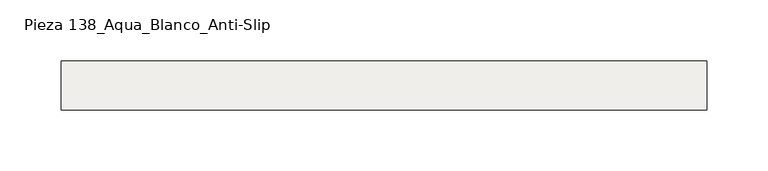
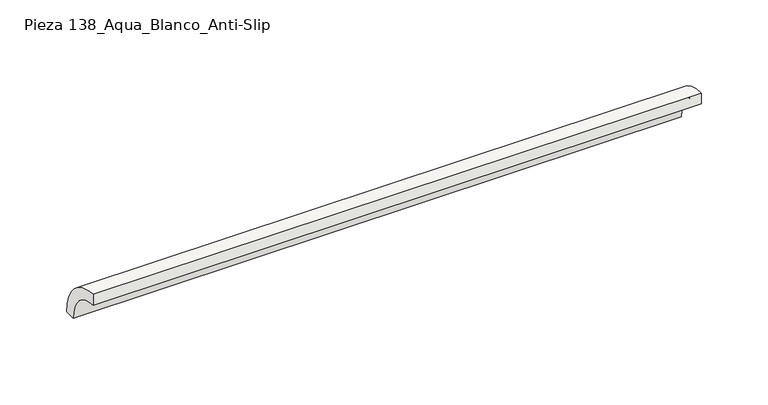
"""IFC4 building model written with IfcOpenShell, lengths in millimetres: slab geometry, ROSA GRES_138 : Pieza 138_Aqua_Blanco_Anti-Slip."""

from ifc_helpers import new_model, si_unit, point, frame, frame_2d, origin, origin_2d, place, context, project, spatial, polyline, circle_curve, trimmed, segment, composite_curve, outline, extrude, source, transform, mapped, element, save


def pieza_138_aqua_blanco_anti_slip_904e9286(model_context):
    return source(origin(), model_context, "Body", "SweptSolid", [
        extrude(outline(composite_curve([segment(trimmed(circle_curve(origin_2d(), 40.0), [point((0.0, 40.0))], [point((40.0, 0.0))], False, "CARTESIAN"), True, "CONTINUOUS"), segment(polyline([(40.0, 0.0), (30.0265886, 0.0)]), True, "CONTINUOUS"), segment(trimmed(circle_curve(frame_2d((0.0044453, 0.0044453)), 30.0221435), [point((30.0265886, 0.0))], [point((0.0, 30.0265886))], True, "CARTESIAN"), True, "CONTINUOUS"), segment(polyline([(0.0, 30.0265886), (0.0, 40.0)]), True, "CONTINUOUS")], self_intersect=False)), frame((0.0, 0.0, 0.0), z_axis=(1.0, 0.0, 0.0), x_axis=(0.0, 1.0, 0.0)), (0.0, 0.0, 1.0), 527.5854806),
    ])


if __name__ == "__main__":
    model = new_model("IFC4")
    model_context = context("Model", 3, world=origin())
    ifc_project = project(units=[si_unit("LENGTHUNIT", "METRE", prefix="MILLI")], contexts=[model_context])
    site = spatial("IfcSite", under=ifc_project)
    building = spatial("IfcBuilding", under=site)
    placement = place(None, origin())
    pieza_138_aqua_blanco_anti_slip_shape = pieza_138_aqua_blanco_anti_slip_904e9286(model_context)
    element("IfcSlab", 1, ObjectType="ROSA GRES_138 : Pieza 138_Aqua_Blanco_Anti-Slip", at=placement, inside=building, context=model_context, shape_type="MappedRepresentation", body=[
        mapped(pieza_138_aqua_blanco_anti_slip_shape, transform((0.0, 0.0, 0.0), x_axis=(1.0, 0.0, 0.0), y_axis=(0.0, 1.0, 0.0), z_axis=(0.0, 0.0, 1.0))),
    ])
    save(model, "model.ifc")
